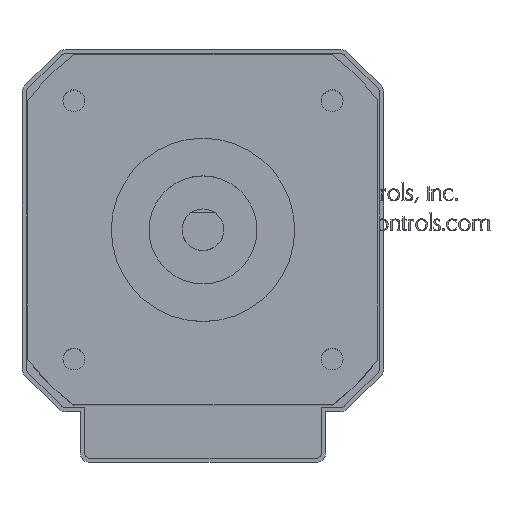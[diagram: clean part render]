
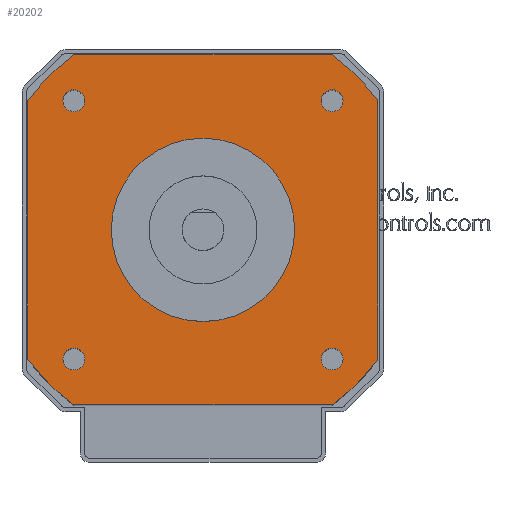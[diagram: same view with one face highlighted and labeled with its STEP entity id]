
A CAD part, top view. The second image highlights one B-rep face of the part: STEP entity #20202.
In plain terms, the highlighted planar face has unit normal (0, 0, 1).
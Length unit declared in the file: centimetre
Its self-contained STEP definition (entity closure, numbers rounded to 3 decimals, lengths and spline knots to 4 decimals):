
#6150=VERTEX_POINT('',#43497);
#6151=VERTEX_POINT('',#43499);
#6152=VERTEX_POINT('',#43503);
#6153=VERTEX_POINT('',#43509);
#6154=VERTEX_POINT('',#43513);
#6155=VERTEX_POINT('',#43517);
#6156=VERTEX_POINT('',#43519);
#6157=VERTEX_POINT('',#43521);
#6158=VERTEX_POINT('',#43524);
#6159=VERTEX_POINT('',#43526);
#6160=VERTEX_POINT('',#43528);
#6161=VERTEX_POINT('',#43530);
#6162=VERTEX_POINT('',#43532);
#8248=EDGE_CURVE('',#6151,#6150,#30225,.T.);
#8250=EDGE_CURVE('',#6152,#6151,#23602,.T.);
#8255=EDGE_CURVE('',#6150,#6153,#23607,.T.);
#8257=EDGE_CURVE('',#6153,#6154,#30226,.T.);
#8258=EDGE_CURVE('',#6154,#6155,#23609,.T.);
#8259=EDGE_CURVE('',#6155,#6156,#30227,.T.);
#8260=EDGE_CURVE('',#6156,#6157,#23610,.T.);
#8261=EDGE_CURVE('',#6157,#6152,#30228,.T.);
#8262=EDGE_CURVE('',#6158,#6158,#30229,.T.);
#8263=EDGE_CURVE('',#6159,#6159,#30230,.T.);
#8264=EDGE_CURVE('',#6160,#6160,#30231,.T.);
#8265=EDGE_CURVE('',#6161,#6161,#30232,.T.);
#8266=EDGE_CURVE('',#6162,#6162,#30233,.T.);
#11412=ORIENTED_EDGE('',*,*,#8248,.T.);
#11413=ORIENTED_EDGE('',*,*,#8255,.T.);
#11414=ORIENTED_EDGE('',*,*,#8257,.T.);
#11415=ORIENTED_EDGE('',*,*,#8258,.T.);
#11416=ORIENTED_EDGE('',*,*,#8259,.T.);
#11417=ORIENTED_EDGE('',*,*,#8260,.T.);
#11418=ORIENTED_EDGE('',*,*,#8261,.T.);
#11419=ORIENTED_EDGE('',*,*,#8250,.T.);
#11420=ORIENTED_EDGE('',*,*,#8262,.F.);
#11421=ORIENTED_EDGE('',*,*,#8263,.F.);
#11422=ORIENTED_EDGE('',*,*,#8264,.F.);
#11423=ORIENTED_EDGE('',*,*,#8265,.F.);
#11424=ORIENTED_EDGE('',*,*,#8266,.F.);
#17624=EDGE_LOOP('',(#11412,#11413,#11414,#11415,#11416,#11417,#11418,#11419));
#17625=EDGE_LOOP('',(#11420));
#17626=EDGE_LOOP('',(#11421));
#17627=EDGE_LOOP('',(#11422));
#17628=EDGE_LOOP('',(#11423));
#17629=EDGE_LOOP('',(#11424));
#18915=FACE_BOUND('',#17624,.T.);
#18916=FACE_BOUND('',#17625,.T.);
#18917=FACE_BOUND('',#17626,.T.);
#18918=FACE_BOUND('',#17627,.T.);
#18919=FACE_BOUND('',#17628,.T.);
#18920=FACE_BOUND('',#17629,.T.);
#20202=ADVANCED_FACE('',(#18915,#18916,#18917,#18918,#18919,#18920),#42137,
.T.);
#23602=LINE('',#43502,#39635);
#23607=LINE('',#43510,#39640);
#23609=LINE('',#43516,#39642);
#23610=LINE('',#43520,#39643);
#30225=CIRCLE('',#38713,2.606);
#30226=CIRCLE('',#38717,2.606);
#30227=CIRCLE('',#38719,2.606);
#30228=CIRCLE('',#38720,2.606);
#30229=CIRCLE('',#38721,0.1308);
#30230=CIRCLE('',#38722,0.1308);
#30231=CIRCLE('',#38723,0.1308);
#30232=CIRCLE('',#38724,0.1308);
#30233=CIRCLE('',#38725,1.1);
#38713=AXIS2_PLACEMENT_3D('',#43498,#60268,#60269);
#38717=AXIS2_PLACEMENT_3D('',#43514,#60282,#60283);
#38718=AXIS2_PLACEMENT_3D('',#43515,#60284,$);
#38719=AXIS2_PLACEMENT_3D('',#43518,#60286,#60287);
#38720=AXIS2_PLACEMENT_3D('',#43522,#60289,#60290);
#38721=AXIS2_PLACEMENT_3D('',#43523,#60291,#60292);
#38722=AXIS2_PLACEMENT_3D('',#43525,#60293,#60294);
#38723=AXIS2_PLACEMENT_3D('',#43527,#60295,#60296);
#38724=AXIS2_PLACEMENT_3D('',#43529,#60297,#60298);
#38725=AXIS2_PLACEMENT_3D('',#43531,#60299,#60300);
#39635=VECTOR('',#60272,1.);
#39640=VECTOR('',#60278,1.);
#39642=VECTOR('',#60285,1.);
#39643=VECTOR('',#60288,1.);
#42137=PLANE('',#38718);
#43497=CARTESIAN_POINT('',(1.55,2.1,0.));
#43498=CARTESIAN_POINT('',(0.0029,0.0029,0.));
#43499=CARTESIAN_POINT('',(2.1,1.55,0.));
#43502=CARTESIAN_POINT('',(2.1,-1.55,0.));
#43503=CARTESIAN_POINT('',(2.1,-1.55,0.));
#43509=CARTESIAN_POINT('',(-1.55,2.1,0.));
#43510=CARTESIAN_POINT('',(1.55,2.1,0.));
#43513=CARTESIAN_POINT('',(-2.1,1.55,0.));
#43514=CARTESIAN_POINT('',(-0.0029,0.0029,0.));
#43515=CARTESIAN_POINT('',(0.,0.,
0.));
#43516=CARTESIAN_POINT('',(-2.1,1.55,0.));
#43517=CARTESIAN_POINT('',(-2.1,-1.55,0.));
#43518=CARTESIAN_POINT('',(-0.0029,-0.0029,0.));
#43519=CARTESIAN_POINT('',(-1.55,-2.1,0.));
#43520=CARTESIAN_POINT('',(-1.55,-2.1,0.));
#43521=CARTESIAN_POINT('',(1.55,-2.1,0.));
#43522=CARTESIAN_POINT('',(0.0029,-0.0029,0.));
#43523=CARTESIAN_POINT('',(-1.55,-1.55,0.));
#43524=CARTESIAN_POINT('',(-1.4192,-1.55,0.));
#43525=CARTESIAN_POINT('',(1.55,1.55,0.));
#43526=CARTESIAN_POINT('',(1.6808,1.55,0.));
#43527=CARTESIAN_POINT('',(-1.55,1.55,0.));
#43528=CARTESIAN_POINT('',(-1.4192,1.55,0.));
#43529=CARTESIAN_POINT('',(1.55,-1.55,0.));
#43530=CARTESIAN_POINT('',(1.6808,-1.55,0.));
#43531=CARTESIAN_POINT('',(0.,0.,0.));
#43532=CARTESIAN_POINT('',(1.1,0.,0.));
#60268=DIRECTION('',(0.,0.,1.));
#60269=DIRECTION('',(2.606,0.,0.));
#60272=DIRECTION('',(0.,1.,0.));
#60278=DIRECTION('',(-1.,0.,0.));
#60282=DIRECTION('',(0.,0.,1.));
#60283=DIRECTION('',(2.606,0.,0.));
#60284=DIRECTION('',(0.,0.,1.));
#60285=DIRECTION('',(0.,-1.,0.));
#60286=DIRECTION('',(0.,0.,1.));
#60287=DIRECTION('',(2.606,0.,0.));
#60288=DIRECTION('',(1.,0.,0.));
#60289=DIRECTION('',(0.,0.,1.));
#60290=DIRECTION('',(2.606,0.,0.));
#60291=DIRECTION('',(0.,0.,1.));
#60292=DIRECTION('',(0.131,0.,0.));
#60293=DIRECTION('',(0.,0.,1.));
#60294=DIRECTION('',(0.131,0.,0.));
#60295=DIRECTION('',(0.,0.,1.));
#60296=DIRECTION('',(0.131,0.,0.));
#60297=DIRECTION('',(0.,0.,1.));
#60298=DIRECTION('',(0.131,0.,0.));
#60299=DIRECTION('',(0.,0.,1.));
#60300=DIRECTION('',(1.1,0.,0.));
